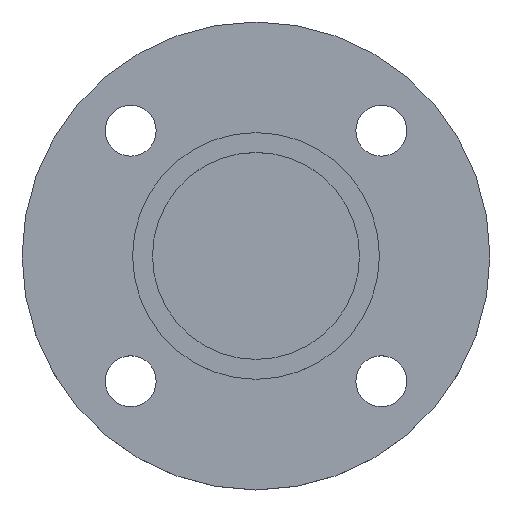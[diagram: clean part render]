
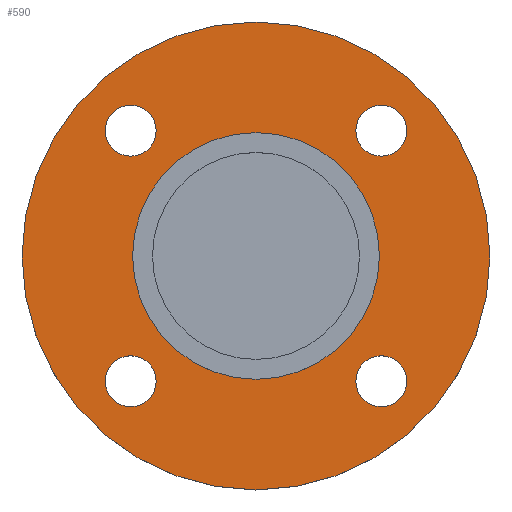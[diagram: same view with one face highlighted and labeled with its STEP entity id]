
A CAD part, top view. The second image highlights one B-rep face of the part: STEP entity #590.
In plain terms, the highlighted planar face has unit normal (0, 0, 1).
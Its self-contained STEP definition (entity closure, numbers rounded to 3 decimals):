
#2 = ORIENTED_EDGE ( 'NONE', *, *, #32, .T. ) ;
#8 = EDGE_CURVE ( 'NONE', #518, #388, #636, .T. ) ;
#29 = CIRCLE ( 'NONE', #52, 9. ) ;
#31 = CIRCLE ( 'NONE', #267, 82.5 ) ;
#32 = EDGE_CURVE ( 'NONE', #558, #426, #252, .T. ) ;
#47 = EDGE_CURVE ( 'NONE', #440, #400, #536, .T. ) ;
#52 = AXIS2_PLACEMENT_3D ( 'NONE', #696, #697, #698 ) ;
#78 = AXIS2_PLACEMENT_3D ( 'NONE', #302, #303, #313 ) ;
#85 = EDGE_CURVE ( 'NONE', #523, #366, #355, .T. ) ;
#90 = AXIS2_PLACEMENT_3D ( 'NONE', #147, #145, #143 ) ;
#108 = DIRECTION ( 'NONE',  ( 0., 0., -1. ) ) ;
#110 = DIRECTION ( 'NONE',  ( -1., 0., 0. ) ) ;
#116 = CARTESIAN_POINT ( 'NONE',  ( -44.194, -44.194, -4.5 ) ) ;
#117 = DIRECTION ( 'NONE',  ( 0., 0., -1. ) ) ;
#118 = DIRECTION ( 'NONE',  ( 1., 0., 0. ) ) ;
#136 = DIRECTION ( 'NONE',  ( 1., 0., 0. ) ) ;
#138 = DIRECTION ( 'NONE',  ( 0., 0., -1. ) ) ;
#140 = CARTESIAN_POINT ( 'NONE',  ( -44.194, 44.194, -4.5 ) ) ;
#143 = DIRECTION ( 'NONE',  ( -1., 0., 0. ) ) ;
#145 = DIRECTION ( 'NONE',  ( 0., 0., -1. ) ) ;
#147 = CARTESIAN_POINT ( 'NONE',  ( 0., 0., -4.5 ) ) ;
#170 = AXIS2_PLACEMENT_3D ( 'NONE', #309, #241, #243 ) ;
#175 = EDGE_CURVE ( 'NONE', #388, #518, #244, .T. ) ;
#177 = FACE_BOUND ( 'NONE', #526, .T. ) ;
#178 = FACE_BOUND ( 'NONE', #552, .T. ) ;
#182 = CARTESIAN_POINT ( 'NONE',  ( 35.194, -44.194, -4.5 ) ) ;
#188 = CARTESIAN_POINT ( 'NONE',  ( -82.5, 0., -4.5 ) ) ;
#189 = DIRECTION ( 'NONE',  ( -1., 0., 0. ) ) ;
#191 = CARTESIAN_POINT ( 'NONE',  ( 0., 0., -4.5 ) ) ;
#194 = CIRCLE ( 'NONE', #78, 9. ) ;
#206 = FACE_BOUND ( 'NONE', #517, .T. ) ;
#210 = CARTESIAN_POINT ( 'NONE',  ( -35.194, 44.194, -4.5 ) ) ;
#214 = FACE_OUTER_BOUND ( 'NONE', #535, .T. ) ;
#215 = DIRECTION ( 'NONE',  ( 0., 0., -1. ) ) ;
#218 = EDGE_CURVE ( 'NONE', #520, #550, #29, .T. ) ;
#234 = CARTESIAN_POINT ( 'NONE',  ( 82.5, 0., -4.5 ) ) ;
#241 = DIRECTION ( 'NONE',  ( 0., 0., 1. ) ) ;
#242 = CARTESIAN_POINT ( 'NONE',  ( -43.5, 0., -4.5 ) ) ;
#243 = DIRECTION ( 'NONE',  ( 1., 0., 0. ) ) ;
#244 = CIRCLE ( 'NONE', #344, 9. ) ;
#245 = FACE_BOUND ( 'NONE', #553, .T. ) ;
#247 = FACE_BOUND ( 'NONE', #541, .T. ) ;
#252 = CIRCLE ( 'NONE', #454, 9. ) ;
#262 = CIRCLE ( 'NONE', #598, 9. ) ;
#264 = CIRCLE ( 'NONE', #90, 43.5 ) ;
#267 = AXIS2_PLACEMENT_3D ( 'NONE', #191, #215, #189 ) ;
#268 = CARTESIAN_POINT ( 'NONE',  ( 53.194, -44.194, -4.5 ) ) ;
#270 = ORIENTED_EDGE ( 'NONE', *, *, #218, .T. ) ;
#271 = CARTESIAN_POINT ( 'NONE',  ( 35.194, 44.194, -4.5 ) ) ;
#274 = CARTESIAN_POINT ( 'NONE',  ( 43.5, 0., -4.5 ) ) ;
#280 = CARTESIAN_POINT ( 'NONE',  ( -53.194, 44.194, -4.5 ) ) ;
#287 = CARTESIAN_POINT ( 'NONE',  ( 53.194, 44.194, -4.5 ) ) ;
#293 = EDGE_CURVE ( 'NONE', #369, #416, #505, .T. ) ;
#300 = EDGE_CURVE ( 'NONE', #550, #520, #522, .T. ) ;
#302 = CARTESIAN_POINT ( 'NONE',  ( 44.194, 44.194, -4.5 ) ) ;
#303 = DIRECTION ( 'NONE',  ( 0., 0., -1. ) ) ;
#304 = PLANE ( 'NONE',  #170 ) ;
#306 = CARTESIAN_POINT ( 'NONE',  ( -53.194, -44.194, -4.5 ) ) ;
#309 = CARTESIAN_POINT ( 'NONE',  ( 43.5, 0., -4.5 ) ) ;
#313 = DIRECTION ( 'NONE',  ( 1., 0., 0. ) ) ;
#336 = AXIS2_PLACEMENT_3D ( 'NONE', #576, #577, #578 ) ;
#338 = CARTESIAN_POINT ( 'NONE',  ( -35.194, -44.194, -4.5 ) ) ;
#344 = AXIS2_PLACEMENT_3D ( 'NONE', #680, #681, #682 ) ;
#346 = AXIS2_PLACEMENT_3D ( 'NONE', #116, #117, #118 ) ;
#349 = AXIS2_PLACEMENT_3D ( 'NONE', #725, #108, #110 ) ;
#355 = CIRCLE ( 'NONE', #569, 82.5 ) ;
#366 = VERTEX_POINT ( 'NONE', #234 ) ;
#369 = VERTEX_POINT ( 'NONE', #242 ) ;
#388 = VERTEX_POINT ( 'NONE', #268 ) ;
#400 = VERTEX_POINT ( 'NONE', #271 ) ;
#416 = VERTEX_POINT ( 'NONE', #274 ) ;
#426 = VERTEX_POINT ( 'NONE', #280 ) ;
#439 = ORIENTED_EDGE ( 'NONE', *, *, #175, .T. ) ;
#440 = VERTEX_POINT ( 'NONE', #287 ) ;
#441 = ORIENTED_EDGE ( 'NONE', *, *, #8, .T. ) ;
#442 = ORIENTED_EDGE ( 'NONE', *, *, #300, .T. ) ;
#443 = ORIENTED_EDGE ( 'NONE', *, *, #632, .T. ) ;
#444 = ORIENTED_EDGE ( 'NONE', *, *, #47, .T. ) ;
#445 = ORIENTED_EDGE ( 'NONE', *, *, #463, .T. ) ;
#446 = ORIENTED_EDGE ( 'NONE', *, *, #293, .T. ) ;
#447 = ORIENTED_EDGE ( 'NONE', *, *, #630, .T. ) ;
#448 = ORIENTED_EDGE ( 'NONE', *, *, #503, .F. ) ;
#449 = ORIENTED_EDGE ( 'NONE', *, *, #85, .F. ) ;
#454 = AXIS2_PLACEMENT_3D ( 'NONE', #603, #604, #605 ) ;
#463 = EDGE_CURVE ( 'NONE', #400, #440, #194, .T. ) ;
#490 = AXIS2_PLACEMENT_3D ( 'NONE', #609, #611, #612 ) ;
#503 = EDGE_CURVE ( 'NONE', #366, #523, #31, .T. ) ;
#505 = CIRCLE ( 'NONE', #349, 43.5 ) ;
#517 = EDGE_LOOP ( 'NONE', ( #446, #447 ) ) ;
#518 = VERTEX_POINT ( 'NONE', #182 ) ;
#520 = VERTEX_POINT ( 'NONE', #306 ) ;
#522 = CIRCLE ( 'NONE', #346, 9. ) ;
#523 = VERTEX_POINT ( 'NONE', #188 ) ;
#526 = EDGE_LOOP ( 'NONE', ( #2, #443 ) ) ;
#535 = EDGE_LOOP ( 'NONE', ( #448, #449 ) ) ;
#536 = CIRCLE ( 'NONE', #490, 9. ) ;
#541 = EDGE_LOOP ( 'NONE', ( #444, #445 ) ) ;
#550 = VERTEX_POINT ( 'NONE', #338 ) ;
#552 = EDGE_LOOP ( 'NONE', ( #442, #270 ) ) ;
#553 = EDGE_LOOP ( 'NONE', ( #439, #441 ) ) ;
#558 = VERTEX_POINT ( 'NONE', #210 ) ;
#569 = AXIS2_PLACEMENT_3D ( 'NONE', #638, #639, #640 ) ;
#576 = CARTESIAN_POINT ( 'NONE',  ( 44.194, -44.194, -4.5 ) ) ;
#577 = DIRECTION ( 'NONE',  ( 0., 0., -1. ) ) ;
#578 = DIRECTION ( 'NONE',  ( 1., 0., 0. ) ) ;
#590 = ADVANCED_FACE ( 'NONE', ( #245, #178, #177, #247, #206, #214 ), #304, .T. ) ;
#598 = AXIS2_PLACEMENT_3D ( 'NONE', #140, #138, #136 ) ;
#603 = CARTESIAN_POINT ( 'NONE',  ( -44.194, 44.194, -4.5 ) ) ;
#604 = DIRECTION ( 'NONE',  ( 0., 0., -1. ) ) ;
#605 = DIRECTION ( 'NONE',  ( 1., 0., 0. ) ) ;
#609 = CARTESIAN_POINT ( 'NONE',  ( 44.194, 44.194, -4.5 ) ) ;
#611 = DIRECTION ( 'NONE',  ( 0., 0., -1. ) ) ;
#612 = DIRECTION ( 'NONE',  ( 1., 0., 0. ) ) ;
#630 = EDGE_CURVE ( 'NONE', #416, #369, #264, .T. ) ;
#632 = EDGE_CURVE ( 'NONE', #426, #558, #262, .T. ) ;
#636 = CIRCLE ( 'NONE', #336, 9. ) ;
#638 = CARTESIAN_POINT ( 'NONE',  ( 0., 0., -4.5 ) ) ;
#639 = DIRECTION ( 'NONE',  ( 0., 0., -1. ) ) ;
#640 = DIRECTION ( 'NONE',  ( -1., 0., 0. ) ) ;
#680 = CARTESIAN_POINT ( 'NONE',  ( 44.194, -44.194, -4.5 ) ) ;
#681 = DIRECTION ( 'NONE',  ( 0., 0., -1. ) ) ;
#682 = DIRECTION ( 'NONE',  ( 1., 0., 0. ) ) ;
#696 = CARTESIAN_POINT ( 'NONE',  ( -44.194, -44.194, -4.5 ) ) ;
#697 = DIRECTION ( 'NONE',  ( 0., 0., -1. ) ) ;
#698 = DIRECTION ( 'NONE',  ( 1., 0., 0. ) ) ;
#725 = CARTESIAN_POINT ( 'NONE',  ( 0., 0., -4.5 ) ) ;
